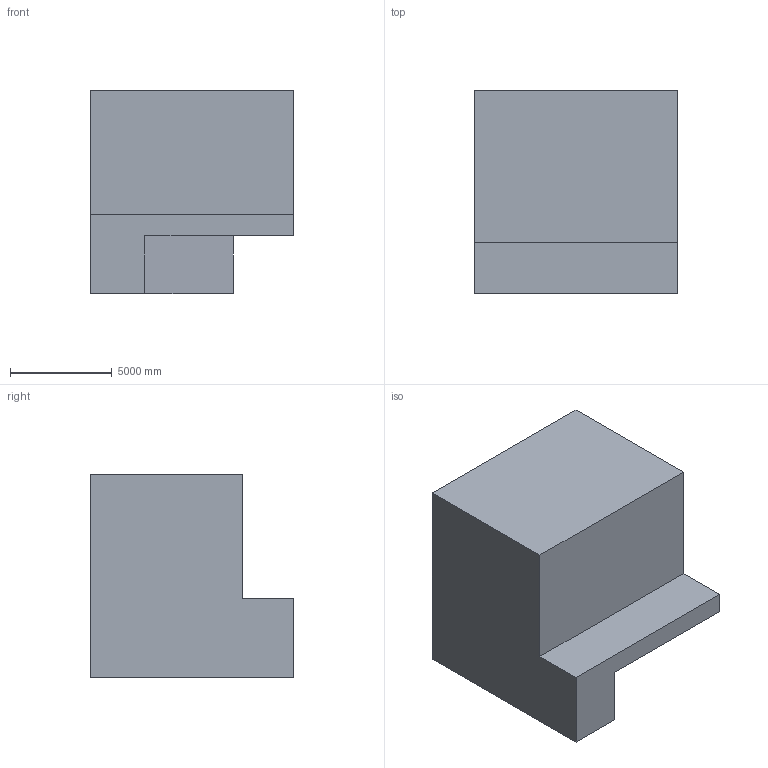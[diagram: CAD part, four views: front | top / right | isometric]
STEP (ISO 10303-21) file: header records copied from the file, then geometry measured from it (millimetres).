
FILE_DESCRIPTION (( 'STEP AP203' ), '1' );
FILE_NAME ('1082.STEP', '2022-08-18T12:41:16', ( 'user' ), ( '' ), 'SwSTEP 2.0', 'SolidWorks 2021', '' );
FILE_SCHEMA (( 'CONFIG_CONTROL_DESIGN' ));
Length unit declared in the file: centimetre
Products named in the file (1): 1082
Bounding box: 10000 x 10000 x 10000 mm (x, y, z)
Volume: 699882726008 mm3; surface area: 536853990.8 mm2
Topology: 1 solids, 1 shells, 11 faces, 27 edges, 18 vertices
Faces by surface type: plane 11
Entity records: 398 total; most frequent: CARTESIAN_POINT 57, ORIENTED_EDGE 54, DIRECTION 51, EDGE_CURVE 27, VECTOR 27, LINE 27, VERTEX_POINT 18, AXIS2_PLACEMENT_3D 12
